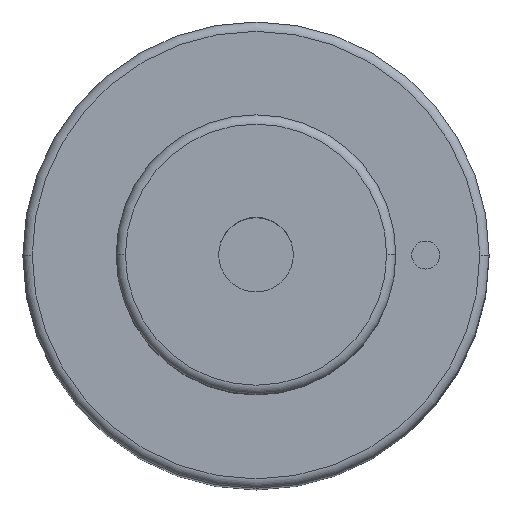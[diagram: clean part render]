
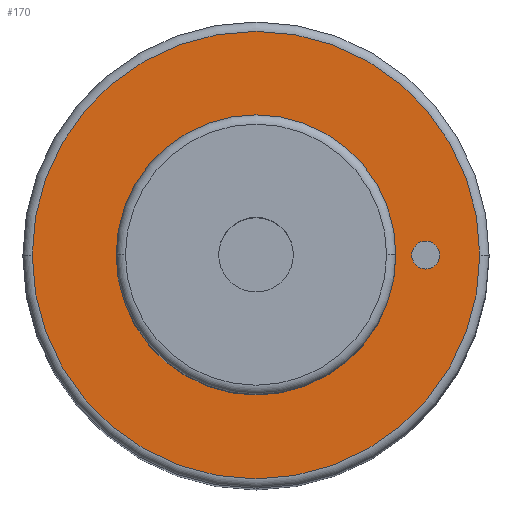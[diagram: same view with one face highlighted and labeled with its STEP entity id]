
A CAD part, top view. The second image highlights one B-rep face of the part: STEP entity #170.
In plain terms, the highlighted planar face has unit normal (0, 0, 1).
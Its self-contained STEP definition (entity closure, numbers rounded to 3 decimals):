
#115=PLANE('',#781);
#129=FACE_BOUND('',#277,.T.);
#130=FACE_BOUND('',#278,.T.);
#131=FACE_BOUND('',#279,.T.);
#170=ADVANCED_FACE('',(#129,#130,#131),#115,.T.);
#277=EDGE_LOOP('',(#483,#484));
#278=EDGE_LOOP('',(#485,#486));
#279=EDGE_LOOP('',(#487,#488));
#295=CIRCLE('',#712,15.);
#296=CIRCLE('',#714,15.);
#300=CIRCLE('',#719,24.);
#301=CIRCLE('',#721,24.);
#331=CIRCLE('',#779,1.5);
#332=CIRCLE('',#780,1.5);
#483=ORIENTED_EDGE('',*,*,#573,.F.);
#484=ORIENTED_EDGE('',*,*,#574,.F.);
#485=ORIENTED_EDGE('',*,*,#626,.F.);
#486=ORIENTED_EDGE('',*,*,#627,.F.);
#487=ORIENTED_EDGE('',*,*,#569,.T.);
#488=ORIENTED_EDGE('',*,*,#567,.T.);
#509=VERTEX_POINT('',#1042);
#510=VERTEX_POINT('',#1044);
#511=VERTEX_POINT('',#1050);
#514=VERTEX_POINT('',#1055);
#546=VERTEX_POINT('',#1170);
#547=VERTEX_POINT('',#1171);
#567=EDGE_CURVE('',#510,#509,#295,.T.);
#569=EDGE_CURVE('',#509,#510,#296,.T.);
#573=EDGE_CURVE('',#514,#511,#300,.T.);
#574=EDGE_CURVE('',#511,#514,#301,.T.);
#626=EDGE_CURVE('',#546,#547,#331,.T.);
#627=EDGE_CURVE('',#547,#546,#332,.T.);
#712=AXIS2_PLACEMENT_3D('',#1043,#832,#833);
#714=AXIS2_PLACEMENT_3D('',#1047,#837,#838);
#719=AXIS2_PLACEMENT_3D('',#1056,#847,#848);
#721=AXIS2_PLACEMENT_3D('',#1058,#851,#852);
#779=AXIS2_PLACEMENT_3D('',#1169,#989,#990);
#780=AXIS2_PLACEMENT_3D('',#1172,#991,#992);
#781=AXIS2_PLACEMENT_3D('',#1173,#993,#994);
#832=DIRECTION('',(0.,0.,-1.));
#833=DIRECTION('',(0.,1.,0.));
#837=DIRECTION('',(0.,0.,-1.));
#838=DIRECTION('',(0.,-1.,0.));
#847=DIRECTION('',(0.,0.,-1.));
#848=DIRECTION('',(0.,1.,0.));
#851=DIRECTION('',(0.,0.,-1.));
#852=DIRECTION('',(0.,-1.,0.));
#989=DIRECTION('',(0.,0.,1.));
#990=DIRECTION('',(0.,1.,0.));
#991=DIRECTION('',(0.,0.,1.));
#992=DIRECTION('',(0.,-1.,0.));
#993=DIRECTION('',(0.,0.,1.));
#994=DIRECTION('',(0.,-1.,0.));
#1042=CARTESIAN_POINT('',(-15.,0.,109.));
#1043=CARTESIAN_POINT('',(0.,0.,109.));
#1044=CARTESIAN_POINT('',(15.,0.,109.));
#1047=CARTESIAN_POINT('',(0.,0.,109.));
#1050=CARTESIAN_POINT('',(-24.,0.,109.));
#1055=CARTESIAN_POINT('',(24.,0.,109.));
#1056=CARTESIAN_POINT('',(0.,0.,109.));
#1058=CARTESIAN_POINT('',(0.,0.,109.));
#1169=CARTESIAN_POINT('',(18.2,0.,109.));
#1170=CARTESIAN_POINT('',(16.7,0.,109.));
#1171=CARTESIAN_POINT('',(19.7,0.,109.));
#1172=CARTESIAN_POINT('',(18.2,0.,109.));
#1173=CARTESIAN_POINT('',(0.,0.,109.));
